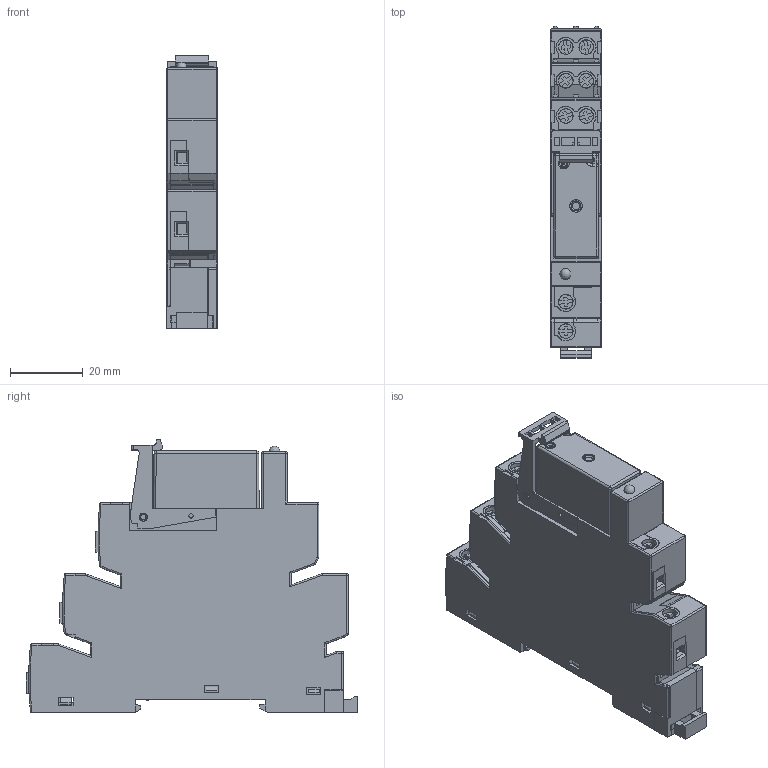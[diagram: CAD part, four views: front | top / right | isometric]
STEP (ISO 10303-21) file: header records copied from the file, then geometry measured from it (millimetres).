
FILE_DESCRIPTION(('STEP AP214'),'2;1');
FILE_NAME('3852.stp','2013-04-03T13:38:56',(''),(''),'2007.1.106','THINKDESIGN','');
FILE_SCHEMA(('AUTOMOTIVE_DESIGN'));
Length unit declared in the file: millimetre
Products named in the file (1): top
Bounding box: 14 x 91.12 x 74.9 mm (x, y, z)
Surface area: 26786.4 mm2 (no closed solid volume)
Topology: 0 solids, 0 shells, 1140 faces, 6738 edges, 6766 vertices
Faces by surface type: plane 923, cylinder 151, bspline 66
Full cylindrical faces by diameter (mm): 0.6 x1, 1.2 x2, 1.5 x2, 2.2 x2, 4 x8
Entity records: 59083 total; most frequent: CARTESIAN_POINT 19399, DIRECTION 8465, COMPOSITE_CURVE_SEGMENT 6681, TRIMMED_CURVE 6101, VECTOR 5891, LINE 5891, AXIS2_PLACEMENT_3D 1287, STYLED_ITEM 1236
